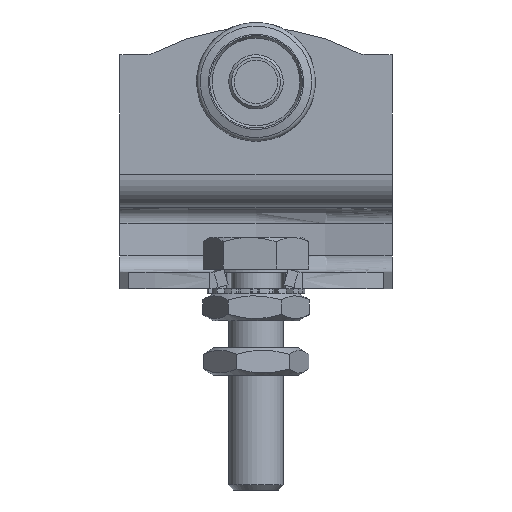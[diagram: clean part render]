
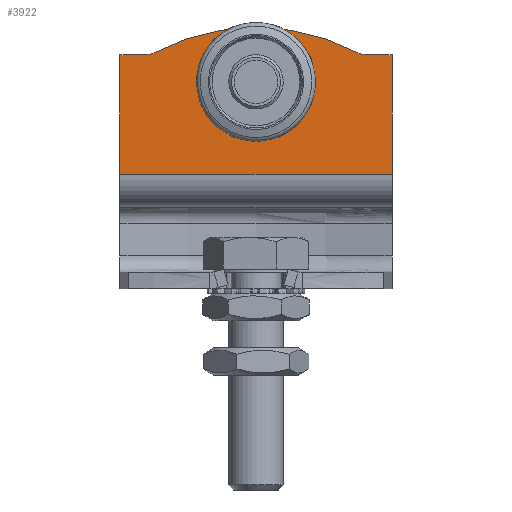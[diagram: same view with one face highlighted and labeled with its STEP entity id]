
A CAD part, left-side view. The second image highlights one B-rep face of the part: STEP entity #3922.
In plain terms, the highlighted planar face has unit normal (-1, 0, 0).
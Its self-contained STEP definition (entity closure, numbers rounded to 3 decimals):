
#159=FACE_BOUND('',#789,.T.);
#202=CIRCLE('',#4129,3.05);
#203=CIRCLE('',#4133,3.);
#205=CIRCLE('',#4136,40.);
#207=CIRCLE('',#4139,3.);
#551=FACE_OUTER_BOUND('',#788,.T.);
#788=EDGE_LOOP('',(#2818,#2819,#2820,#2821,#2822,#2823,#2824,#2825));
#789=EDGE_LOOP('',(#2826,#2827,#2828,#2829));
#1027=LINE('',#5869,#1339);
#1030=LINE('',#5875,#1342);
#1034=LINE('',#5885,#1346);
#1035=LINE('',#5889,#1347);
#1042=LINE('',#5915,#1354);
#1047=LINE('',#5924,#1359);
#1108=LINE('',#6422,#1420);
#1110=LINE('',#6429,#1422);
#1339=VECTOR('',#4605,6.1);
#1342=VECTOR('',#4610,6.3);
#1346=VECTOR('',#4622,6.3);
#1347=VECTOR('',#4625,4.875);
#1354=VECTOR('',#4652,4.875);
#1359=VECTOR('',#4659,22.);
#1420=VECTOR('',#4802,50.);
#1422=VECTOR('',#4810,22.);
#1651=VERTEX_POINT('',#5866);
#1652=VERTEX_POINT('',#5868);
#1654=VERTEX_POINT('',#5874);
#1656=VERTEX_POINT('',#5880);
#1657=VERTEX_POINT('',#5887);
#1658=VERTEX_POINT('',#5888);
#1661=VERTEX_POINT('',#5896);
#1663=VERTEX_POINT('',#5902);
#1665=VERTEX_POINT('',#5908);
#1667=VERTEX_POINT('',#5914);
#1670=VERTEX_POINT('',#5922);
#1722=VERTEX_POINT('',#6421);
#2039=EDGE_CURVE('',#1652,#1651,#1027,.T.);
#2042=EDGE_CURVE('',#1654,#1652,#1030,.T.);
#2045=EDGE_CURVE('',#1656,#1654,#202,.T.);
#2048=EDGE_CURVE('',#1651,#1656,#1034,.T.);
#2049=EDGE_CURVE('',#1657,#1658,#1035,.T.);
#2053=EDGE_CURVE('',#1661,#1657,#203,.T.);
#2056=EDGE_CURVE('',#1663,#1661,#205,.T.);
#2059=EDGE_CURVE('',#1665,#1663,#207,.T.);
#2062=EDGE_CURVE('',#1667,#1665,#1042,.T.);
#2067=EDGE_CURVE('',#1670,#1658,#1047,.T.);
#2147=EDGE_CURVE('',#1670,#1722,#1108,.T.);
#2151=EDGE_CURVE('',#1667,#1722,#1110,.T.);
#2818=ORIENTED_EDGE('',*,*,#2049,.T.);
#2819=ORIENTED_EDGE('',*,*,#2067,.F.);
#2820=ORIENTED_EDGE('',*,*,#2147,.T.);
#2821=ORIENTED_EDGE('',*,*,#2151,.F.);
#2822=ORIENTED_EDGE('',*,*,#2062,.T.);
#2823=ORIENTED_EDGE('',*,*,#2059,.T.);
#2824=ORIENTED_EDGE('',*,*,#2056,.T.);
#2825=ORIENTED_EDGE('',*,*,#2053,.T.);
#2826=ORIENTED_EDGE('',*,*,#2045,.T.);
#2827=ORIENTED_EDGE('',*,*,#2042,.T.);
#2828=ORIENTED_EDGE('',*,*,#2039,.T.);
#2829=ORIENTED_EDGE('',*,*,#2048,.T.);
#3795=PLANE('',#4191);
#3922=ADVANCED_FACE('',(#551,#159),#3795,.F.);
#4129=AXIS2_PLACEMENT_3D('',#5881,#4616,#4617);
#4133=AXIS2_PLACEMENT_3D('',#5897,#4631,#4632);
#4136=AXIS2_PLACEMENT_3D('',#5903,#4638,#4639);
#4139=AXIS2_PLACEMENT_3D('',#5909,#4645,#4646);
#4191=AXIS2_PLACEMENT_3D('',#6439,#4822,#4823);
#4605=DIRECTION('',(0.,1.,0.));
#4610=DIRECTION('',(0.,0.,-1.));
#4616=DIRECTION('center_axis',(1.,0.,0.));
#4617=DIRECTION('ref_axis',(0.,-1.,0.));
#4622=DIRECTION('',(0.,0.,1.));
#4625=DIRECTION('',(0.,1.,0.));
#4631=DIRECTION('center_axis',(1.,0.,0.));
#4632=DIRECTION('ref_axis',(0.,-0.468,-0.884));
#4638=DIRECTION('center_axis',(-1.,0.,0.));
#4639=DIRECTION('ref_axis',(0.,0.375,-0.927));
#4645=DIRECTION('center_axis',(1.,0.,0.));
#4646=DIRECTION('ref_axis',(0.,0.,-1.));
#4652=DIRECTION('',(0.,1.,0.));
#4659=DIRECTION('',(0.,0.,1.));
#4802=DIRECTION('',(0.,-1.,0.));
#4810=DIRECTION('',(0.,0.,-1.));
#4822=DIRECTION('center_axis',(1.,0.,0.));
#4823=DIRECTION('ref_axis',(0.,0.,
-1.));
#5866=CARTESIAN_POINT('',(-1.5,3.05,31.7));
#5868=CARTESIAN_POINT('',(-1.5,-3.05,31.7));
#5869=CARTESIAN_POINT('',(-1.5,-1.525,31.7));
#5874=CARTESIAN_POINT('',(-1.5,-3.05,38.));
#5875=CARTESIAN_POINT('',(-1.5,-3.05,34.554));
#5880=CARTESIAN_POINT('',(-1.5,3.05,38.));
#5881=CARTESIAN_POINT('Origin',(-1.5,0.,38.));
#5885=CARTESIAN_POINT('',(-1.5,3.05,31.404));
#5887=CARTESIAN_POINT('',(-1.5,20.125,43.));
#5888=CARTESIAN_POINT('',(-1.5,25.,43.));
#5889=CARTESIAN_POINT('',(-1.5,10.062,43.));
#5896=CARTESIAN_POINT('',(-1.5,18.721,43.349));
#5897=CARTESIAN_POINT('Origin',(-1.5,20.125,46.));
#5902=CARTESIAN_POINT('',(-1.5,-18.721,43.349));
#5903=CARTESIAN_POINT('Origin',(-1.5,0.,8.));
#5908=CARTESIAN_POINT('',(-1.5,-20.125,43.));
#5909=CARTESIAN_POINT('Origin',(-1.5,-20.125,46.));
#5914=CARTESIAN_POINT('',(-1.5,-25.,43.));
#5915=CARTESIAN_POINT('',(-1.5,-12.5,43.));
#5922=CARTESIAN_POINT('',(-1.5,25.,21.));
#5924=CARTESIAN_POINT('',(-1.5,25.,21.));
#6421=CARTESIAN_POINT('',(-1.5,-25.,21.));
#6422=CARTESIAN_POINT('',(-1.5,0.,21.));
#6429=CARTESIAN_POINT('',(-1.5,-25.,7.428));
#6439=CARTESIAN_POINT('Origin',(-1.5,0.,
31.107));
